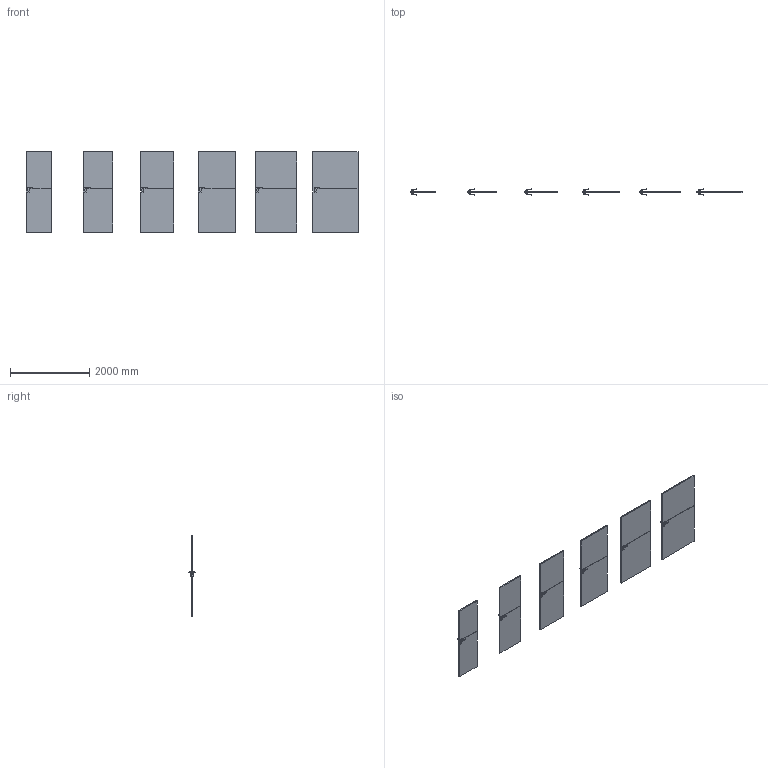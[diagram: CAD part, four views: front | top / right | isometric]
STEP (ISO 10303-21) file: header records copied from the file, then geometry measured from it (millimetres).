
FILE_DESCRIPTION(/* description */ (''),/* implementation_level */ '2;1');
FILE_NAME(/* name */ '049723_A_3-Skrzydło DESIRE model 3_ polska norma _PN__ odwrotna przylga..stp',/* time_stamp */ '2024-02-23T13:38:33+01:00',/* author */ (''),/* organization */ (''),/* preprocessor_version */ 'ST-DEVELOPER v16',/* originating_system */ 'SIEMENS PLM Software NX 11.0',/* authorisation */ '');
FILE_SCHEMA (('AUTOMOTIVE_DESIGN { 1 0 10303 214 3 1 1 1 }'));
Length unit declared in the file: millimetre
Products named in the file (1): bkni3644DE08ayke
Bounding box: 8389 x 153.27 x 2027 mm (x, y, z)
Volume: 421986000.3 mm3; surface area: 23499541.1 mm2
Topology: 42 solids, 42 shells, 1188 faces, 2784 edges, 1560 vertices
Faces by surface type: plane 540, cylinder 288, bspline 192, sphere 168
Entity records: 39221 total; most frequent: CARTESIAN_POINT 13789, ORIENTED_EDGE 5232, DIRECTION 5018, EDGE_CURVE 2616, AXIS2_PLACEMENT_3D 1765, VERTEX_POINT 1560, LINE 1488, VECTOR 1488
